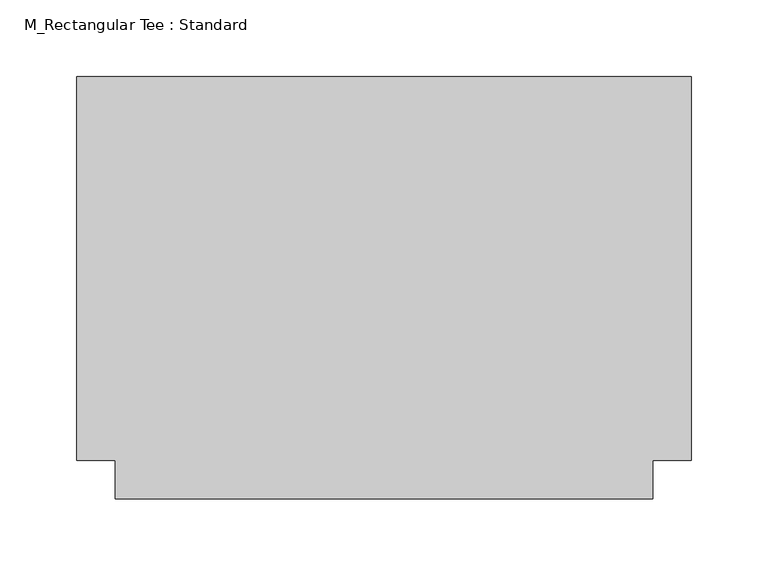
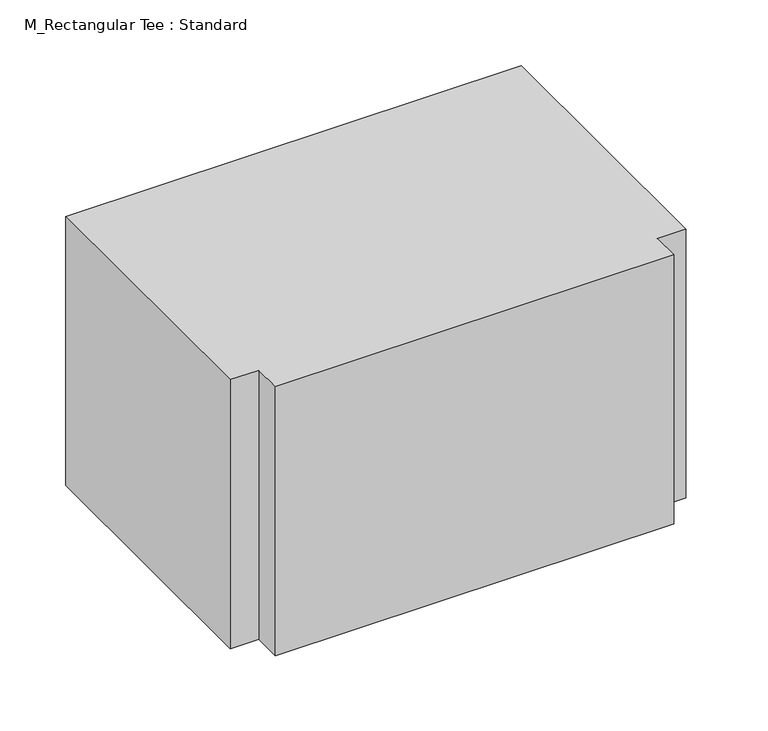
"""IFC4 building model written with IfcOpenShell, lengths in millimetres: duct fitting geometry, M_Rectangular Tee : Standard."""

from ifc_helpers import new_model, si_unit, frame, origin, place, context, project, spatial, polyline, outline, extrude, source, transform, mapped, element, save


def m_rectangular_tee_standard_dc2667f1(model_context):
    return source(origin(), model_context, "Body", "SweptSolid", [
        extrude(outline(polyline([(-200.0, -125.0), (-200.0, 125.0), (200.0, 125.0), (200.0, -125.0), (175.0, -125.0), (175.0, -150.0), (-175.0, -150.0), (-175.0, -125.0), (-200.0, -125.0)])), frame((0.0, 0.0, -125.0), z_axis=(0.0, 0.0, 1.0), x_axis=(1.0, 0.0, 0.0)), (0.0, 0.0, 1.0), 250.0),
        extrude(outline(polyline([(-200.0, 125.0), (200.0, 125.0), (200.0, -125.0), (175.0, -125.0), (175.0, -150.0), (-175.0, -150.0), (-175.0, -125.0), (-200.0, -125.0), (-200.0, 125.0)])), frame((0.0, 0.0, -125.0), z_axis=(0.0, 0.0, 1.0), x_axis=(1.0, 0.0, 0.0)), (0.0, 0.0, 1.0), 250.0),
        extrude(outline(polyline([(-200.0, -125.0), (-200.0, 125.0), (200.0, 125.0), (200.0, -125.0), (175.0, -125.0), (175.0, -150.0), (-175.0, -150.0), (-175.0, -125.0), (-200.0, -125.0)])), frame((0.0, 0.0, -125.0), z_axis=(0.0, 0.0, 1.0), x_axis=(1.0, 0.0, 0.0)), (0.0, 0.0, 1.0), 250.0),
    ])


if __name__ == "__main__":
    model = new_model("IFC4")
    model_context = context("Model", 3, world=origin())
    ifc_project = project(units=[si_unit("LENGTHUNIT", "METRE", prefix="MILLI")], contexts=[model_context])
    site = spatial("IfcSite", under=ifc_project)
    building = spatial("IfcBuilding", under=site)
    placement = place(None, origin())
    m_rectangular_tee_standard_shape = m_rectangular_tee_standard_dc2667f1(model_context)
    element("IfcDuctFitting", 1, ObjectType="M_Rectangular Tee : Standard", at=placement, inside=building, context=model_context, shape_type="MappedRepresentation", body=[
        mapped(m_rectangular_tee_standard_shape, transform((0.0, 0.0, 0.0), x_axis=(1.0, 0.0, 0.0), y_axis=(0.0, 1.0, 0.0), z_axis=(0.0, 0.0, 1.0))),
    ])
    save(model, "model.ifc")
